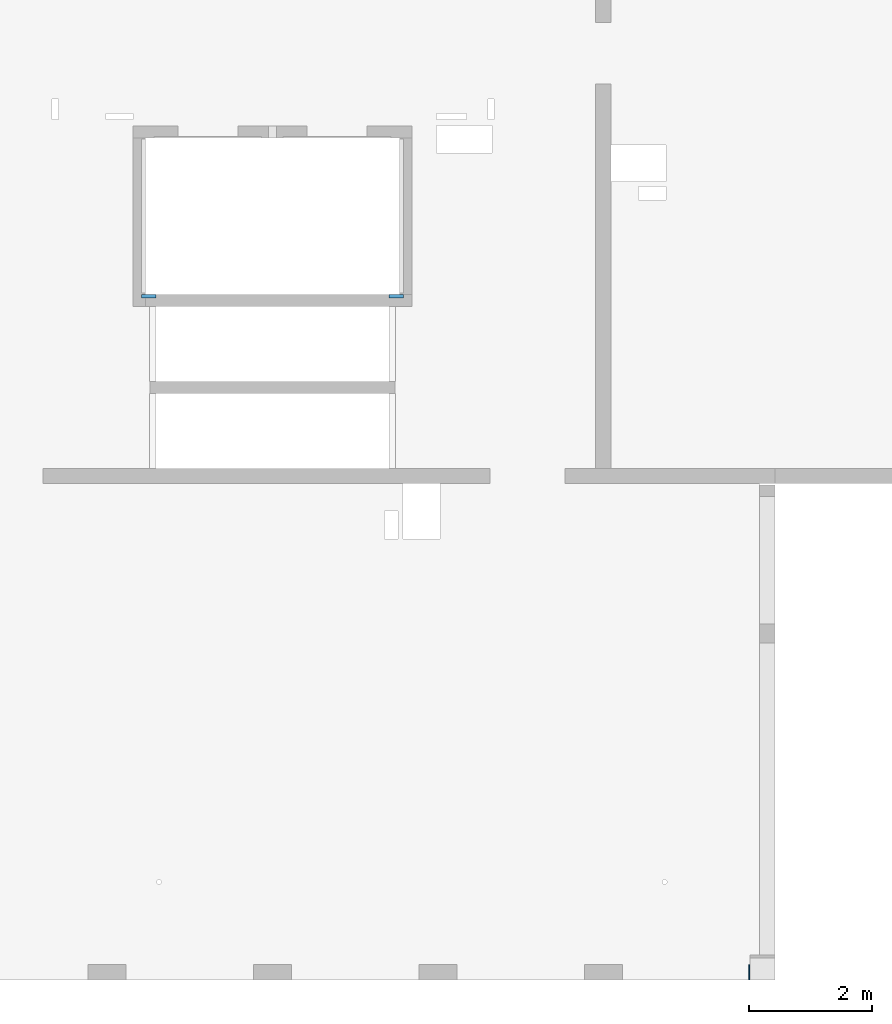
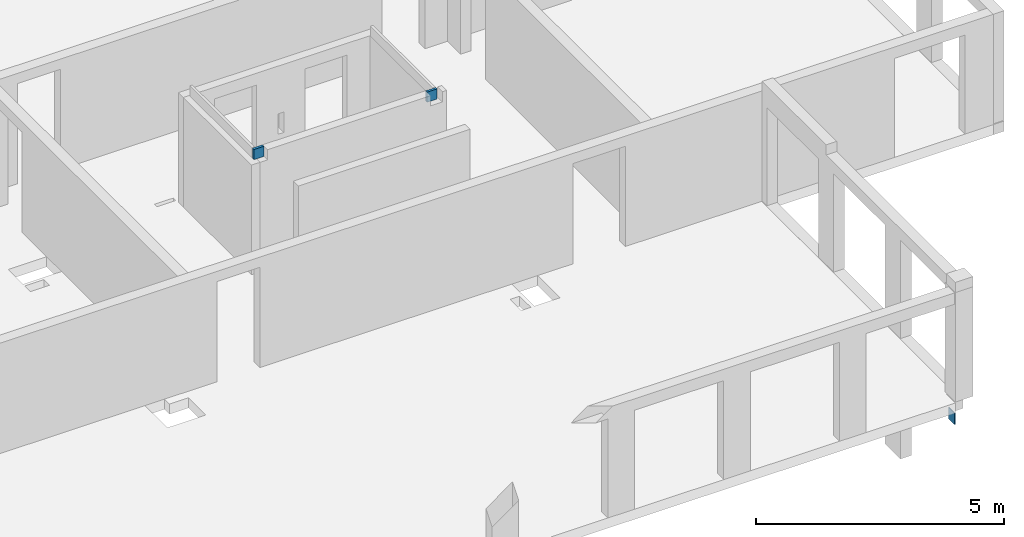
# One storey, part 8 of 9: 3 walls.
"""IFC2X3 building model written with IfcOpenShell, lengths in millimetres."""

import ifcopenshell
import ifcopenshell.guid

model = None  # the IFC model being written
_history = None  # IfcOwnerHistory: only IFC2X3 demands one
_inside = {}  # id of a spatial element -> (the spatial element, [elements in it])
_under = {}  # id of a project, library or spatial element -> (it, [spatial elements below it])
_declared = {}  # id of a project -> (the project, [libraries it declares])
_typed = {}  # id of a type object -> (the type object, [elements of that type])
_made_of = {}  # id of a material, layer set ... -> (it, [elements and type objects made of it])


def new_model(schema):
    """Start an empty IFC model of exactly this schema.

    Asked for "IFC4X3", IfcOpenShell would pick the latest addendum, in which some entities
    have other attributes; the version numbers below select the first issue.
    IFC2X3 requires an IfcOwnerHistory on every rooted entity: one is made here for all.
    """
    global model, _history
    if schema == "IFC4X3":
        model = ifcopenshell.file(schema_version=(4, 3, 0, 0))
    else:
        model = ifcopenshell.file(schema=schema)
    _inside.clear()
    _under.clear()
    _declared.clear()
    _typed.clear()
    _made_of.clear()
    _history = None
    if model.schema == "IFC2X3":
        org = make("IfcOrganization", Name="unknown")
        user = make(
            "IfcPersonAndOrganization",
            ThePerson=make("IfcPerson", FamilyName="unknown"),
            TheOrganization=org,
        )
        app = make(
            "IfcApplication",
            ApplicationDeveloper=org,
            Version="unknown",
            ApplicationFullName="unknown",
            ApplicationIdentifier="unknown",
        )
        _history = make(
            "IfcOwnerHistory",
            OwningUser=user,
            OwningApplication=app,
            ChangeAction="ADDED",
            CreationDate=0,
        )
    return model


def make(cls, **values):
    """One entity of the class cls with the attributes given. An attribute that is None is left unset."""
    return model.create_entity(
        cls, **{name: value for name, value in values.items() if value is not None}
    )


def entity(cls, *values):
    """Any entity or typed value of the class cls, its attributes in the order of the schema. None: left unset."""
    e = model.create_entity(cls)
    for i, value in enumerate(values):
        if value is not None:
            e[i] = value
    return e


def rooted(cls, **values):
    """An entity with a GlobalId (a new one), such as an element, a storey or a relation."""
    return make(cls, GlobalId=ifcopenshell.guid.new(), OwnerHistory=_history, **values)


def si_unit(unit_type, name, prefix=None):
    """IfcSIUnit, for example si_unit("LENGTHUNIT", "METRE", prefix="MILLI")."""
    return make("IfcSIUnit", UnitType=unit_type, Prefix=prefix, Name=name)


def converted_unit(unit_type, name, factor, base, dimensions=None, offset=None):
    """IfcConversionBasedUnit, such as the inch: factor (a typed value) times the base unit."""
    return make(
        "IfcConversionBasedUnit"
        if offset is None
        else "IfcConversionBasedUnitWithOffset",
        ConversionOffset=offset,
        Dimensions=None
        if dimensions is None
        else entity("IfcDimensionalExponents", *dimensions),
        UnitType=unit_type,
        Name=name,
        ConversionFactor=make(
            "IfcMeasureWithUnit", ValueComponent=factor, UnitComponent=base
        ),
    )


def derived_unit(unit_type, elements):
    """IfcDerivedUnit: a product of units, each with its exponent."""
    return make(
        "IfcDerivedUnit",
        Elements=[
            make("IfcDerivedUnitElement", Unit=unit, Exponent=power)
            for unit, power in elements
        ],
        UnitType=unit_type,
    )


def assignment(units):
    """IfcUnitAssignment: the units of a project."""
    return None if units is None else make("IfcUnitAssignment", Units=units)


def point(xyz):
    """IfcCartesianPoint."""
    return None if xyz is None else make("IfcCartesianPoint", Coordinates=xyz)


def direction(xyz):
    """IfcDirection."""
    return None if xyz is None else make("IfcDirection", DirectionRatios=xyz)


def frame(location, z_axis=None, x_axis=None):
    """IfcAxis2Placement3D, a coordinate frame: its origin and axes. An axis left out is left unset."""
    return make(
        "IfcAxis2Placement3D",
        Location=point(location),
        Axis=direction(z_axis),
        RefDirection=direction(x_axis),
    )


def frame_2d(location, x_axis=None):
    """IfcAxis2Placement2D, a coordinate frame in the plane: its origin and x axis."""
    return make(
        "IfcAxis2Placement2D", Location=point(location), RefDirection=direction(x_axis)
    )


def origin():
    """The frame at (0, 0, 0) with its axes left unset."""
    return frame((0.0, 0.0, 0.0))


def place(relative_to, where):
    """IfcLocalPlacement: puts the frame where relative to a parent placement (None: the world)."""
    return make(
        "IfcLocalPlacement", PlacementRelTo=relative_to, RelativePlacement=where
    )


def context(
    kind, dimensions, precision=None, world=None, true_north=None, identifier=None
):
    """IfcGeometricRepresentationContext, for example the 3D "Model" context."""
    return make(
        "IfcGeometricRepresentationContext",
        ContextIdentifier=identifier,
        ContextType=kind,
        CoordinateSpaceDimension=dimensions,
        Precision=precision,
        WorldCoordinateSystem=world,
        TrueNorth=true_north,
    )


def subcontext(parent, identifier, kind, view, scale=None):
    """IfcGeometricRepresentationSubContext, for example "Body" below "Model"."""
    return make(
        "IfcGeometricRepresentationSubContext",
        ContextIdentifier=identifier,
        ContextType=kind,
        ParentContext=parent,
        TargetScale=scale,
        TargetView=view,
    )


def project(units=None, contexts=None):
    """IfcProject with its units and contexts."""
    return rooted(
        "IfcProject",
        Name="project",
        RepresentationContexts=contexts,
        UnitsInContext=assignment(units),
    )


def spatial(cls, under=None, at=None, **own):
    """A site, building, storey or space (cls), placed at a placement, below another one or the project."""
    s = rooted(cls, ObjectPlacement=at, **own)
    if under is not None:
        _under.setdefault(under.id(), (under, []))[1].append(s)
    return s


def profile(cls, at=None, kind="AREA", **sizes):
    """A parametric profile (cls). Its sizes go by their IFC names, for example OverallWidth=200.0."""
    return make(cls, ProfileType=kind, Position=at, **sizes)


def rectangle(**sizes):
    """IfcRectangleProfileDef."""
    return profile("IfcRectangleProfileDef", **sizes)


def extrude(swept, where, along, depth):
    """IfcExtrudedAreaSolid: the profile swept, set in the frame where, extruded along a direction by depth."""
    return make(
        "IfcExtrudedAreaSolid",
        SweptArea=swept,
        Position=where,
        ExtrudedDirection=direction(along),
        Depth=depth,
    )


def shape(context_of_items, identifier, shape_type, items):
    """IfcShapeRepresentation: the items that make up one representation, for example the "Body"."""
    return make(
        "IfcShapeRepresentation",
        ContextOfItems=context_of_items,
        RepresentationIdentifier=identifier,
        RepresentationType=shape_type,
        Items=items,
    )


def material(Name=None, Category=None):
    """IfcMaterial."""
    return make("IfcMaterial", Name=Name, Category=Category)


def layer(
    of_material, thickness, ventilated=None, Name=None, Category=None, Priority=None
):
    """IfcMaterialLayer: one layer of a wall or slab, of a material (None: an air gap)."""
    return make(
        "IfcMaterialLayer",
        Material=of_material,
        LayerThickness=thickness,
        IsVentilated=ventilated,
        Name=Name,
        Category=Category,
        Priority=Priority,
    )


def layer_set(layers, Name=None):
    """IfcMaterialLayerSet."""
    return make("IfcMaterialLayerSet", MaterialLayers=layers, LayerSetName=Name)


def layer_usage(for_layer_set, set_direction, sense, offset, extent=None):
    """IfcMaterialLayerSetUsage: how a layer set lies in its element."""
    return make(
        "IfcMaterialLayerSetUsage",
        ForLayerSet=for_layer_set,
        LayerSetDirection=set_direction,
        DirectionSense=sense,
        OffsetFromReferenceLine=offset,
        ReferenceExtent=extent,
    )


def made_of(thing, what):
    """Note that an element or type object is made of a material, layer set ...; save() writes the relation."""
    if what is not None:
        _made_of.setdefault(what.id(), (what, []))[1].append(thing)
    return thing


def type_object(cls, material=None, **own):
    """A type object (cls), such as IfcWallType, which elements share."""
    return made_of(rooted(cls, **own), material)


def element(
    cls,
    number,
    at=None,
    inside=None,
    cuts=None,
    type_object=None,
    material=None,
    context=None,
    identifier="Body",
    shape_type=None,
    held_by="IfcProductDefinitionShape",
    body=None,
    shapes=None,
    **own,
):
    """One element of the class cls, such as IfcWall. Its Tag is "e" and its number.

    at: its placement. inside: the storey or other place that contains it. cuts: it is an
    opening in that element (IfcRelVoidsElement). A single representation is given by context,
    identifier, shape_type and body (its items); several are given by shapes. held_by: the class
    of the entity that holds the representations. save() writes the other relations.
    """
    e = rooted(cls, Tag="e%d" % number, ObjectPlacement=at, **own)
    if body is not None:
        shapes = [shape(context, identifier, shape_type, body)]
    if shapes is not None:
        e.Representation = make(held_by, Representations=shapes)
    if inside is not None:
        _inside.setdefault(inside.id(), (inside, []))[1].append(e)
    if cuts is not None:
        rooted(
            "IfcRelVoidsElement", RelatingBuildingElement=cuts, RelatedOpeningElement=e
        )
    if type_object is not None:
        _typed.setdefault(type_object.id(), (type_object, []))[1].append(e)
    return made_of(e, material)


def aggregate(whole, parts):
    """IfcRelAggregates: a whole, such as a stair, and the parts it consists of."""
    return rooted("IfcRelAggregates", RelatingObject=whole, RelatedObjects=parts)


def save(model, path):
    """Write the relations noted so far, then the file.

    IfcRelAggregates (storeys below a building ...), IfcRelContainedInSpatialStructure (elements
    in a storey), IfcRelDefinesByType, IfcRelAssociatesMaterial and IfcRelDeclares: one each for
    every whole, place, type object, material and project.
    """
    for whole, parts in _under.values():
        aggregate(whole, parts)
    for where, things in _inside.values():
        rooted(
            "IfcRelContainedInSpatialStructure",
            RelatedElements=things,
            RelatingStructure=where,
        )
    for kind, things in _typed.values():
        rooted("IfcRelDefinesByType", RelatedObjects=things, RelatingType=kind)
    for what, things in _made_of.values():
        rooted("IfcRelAssociatesMaterial", RelatedObjects=things, RelatingMaterial=what)
    for by, libraries in _declared.values():
        rooted("IfcRelDeclares", RelatingContext=by, RelatedDefinitions=libraries)
    model.write(path)


model = new_model("IFC2X3")

# Units and contexts
model_context = context("Model", 3, precision=0.01, world=origin(), true_north=direction((6.12303176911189e-17, 1.0)))
body_context = subcontext(model_context, "Body", "Model", "MODEL_VIEW")
ifc_project = project(units=[si_unit("LENGTHUNIT", "METRE", prefix="MILLI"), si_unit("AREAUNIT", "SQUARE_METRE"), si_unit("VOLUMEUNIT", "CUBIC_METRE"), converted_unit("PLANEANGLEUNIT", "DEGREE", entity("IfcRatioMeasure", 0.0174532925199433), si_unit("PLANEANGLEUNIT", "RADIAN"), dimensions=[0, 0, 0, 0, 0, 0, 0]), si_unit("MASSUNIT", "GRAM", prefix="KILO"), derived_unit("MASSDENSITYUNIT", [(si_unit("MASSUNIT", "GRAM", prefix="KILO"), 1), (si_unit("LENGTHUNIT", "METRE"), -3)]), si_unit("TIMEUNIT", "SECOND"), si_unit("FREQUENCYUNIT", "HERTZ"), si_unit("THERMODYNAMICTEMPERATUREUNIT", "DEGREE_CELSIUS"), derived_unit("THERMALTRANSMITTANCEUNIT", [(si_unit("MASSUNIT", "GRAM", prefix="KILO"), 1), (si_unit("THERMODYNAMICTEMPERATUREUNIT", "KELVIN"), -1), (si_unit("TIMEUNIT", "SECOND"), -3)]), derived_unit("VOLUMETRICFLOWRATEUNIT", [(si_unit("LENGTHUNIT", "METRE"), 3), (si_unit("TIMEUNIT", "SECOND"), -1)]), si_unit("ELECTRICCURRENTUNIT", "AMPERE"), si_unit("ELECTRICVOLTAGEUNIT", "VOLT"), si_unit("POWERUNIT", "WATT"), si_unit("FORCEUNIT", "NEWTON", prefix="KILO"), si_unit("ILLUMINANCEUNIT", "LUX"), si_unit("LUMINOUSFLUXUNIT", "LUMEN"), si_unit("LUMINOUSINTENSITYUNIT", "CANDELA"), derived_unit("USERDEFINED", [(si_unit("MASSUNIT", "GRAM", prefix="KILO"), -1), (si_unit("LENGTHUNIT", "METRE"), -2), (si_unit("TIMEUNIT", "SECOND"), 3), (si_unit("LUMINOUSFLUXUNIT", "LUMEN"), 1)]), derived_unit("LINEARVELOCITYUNIT", [(si_unit("LENGTHUNIT", "METRE"), 1), (si_unit("TIMEUNIT", "SECOND"), -1)]), si_unit("PRESSUREUNIT", "PASCAL"), derived_unit("USERDEFINED", [(si_unit("LENGTHUNIT", "METRE"), -2), (si_unit("MASSUNIT", "GRAM", prefix="KILO"), 1), (si_unit("TIMEUNIT", "SECOND"), -2)])], contexts=[model_context])

# Site, building, storey
site_placement = place(None, origin())
site = spatial("IfcSite", under=ifc_project, at=site_placement, Name="Default", CompositionType="ELEMENT")
building_placement = place(site_placement, origin())
building = spatial("IfcBuilding", under=site, at=building_placement, Name="niet gebruiken", CompositionType="ELEMENT")
storey_placement = place(building_placement, frame((0.0, 0.0, 33390.0)))
storey = spatial("IfcBuildingStorey", under=building, at=storey_placement, Name="11 elfde verdieping", CompositionType="ELEMENT", Elevation=33390.0)

# Walls
ifc_material_1 = material(Name="NLRS_f2_beton ihwg")
ifc_layer_1 = layer(ifc_material_1, 250.0)
ifc_layer_set_1 = layer_set([ifc_layer_1], Name="Basic Wall:NLRS_21.21_WA_beton ihwg d=250_gen")
ifc_layer_usage_1 = layer_usage(ifc_layer_set_1, "AXIS2", "NEGATIVE", 125.0)
wall_type_1 = type_object("IfcWallType", Name="Basic Wall:NLRS_21.21_WA_beton ihwg d=250_gen", PredefinedType="STANDARD", material=ifc_layer_set_1)
wall_1_placement = place(storey_placement, frame((99570.0, 28881.0, -620.0)))
element("IfcWallStandardCase", 1, at=wall_1_placement, inside=storey, type_object=wall_type_1, material=ifc_layer_usage_1, Name="Basic Wall:NLRS_21.21_WA_beton ihwg d=250_gen", ObjectType="Basic Wall:NLRS_21.21_WA_beton ihwg d=250_gen", context=body_context, shape_type="SweptSolid", body=[
    extrude(rectangle(XDim=19.9999999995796, YDim=250.000000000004, at=frame_2d((9.99999999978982, 1.63424829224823e-13), x_axis=(-1.0, 0.0))), origin(), (0.0, 0.0, 1.0), 280.000000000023),
])
ifc_material_2 = material(Name="NLRS_f2_beton prefab")
ifc_layer_2 = layer(ifc_material_2, 60.0)
ifc_layer_set_2 = layer_set([ifc_layer_2], Name="Basic Wall:NLRS_22.21_WA_beton prefab d=60_gen")
ifc_layer_usage_2 = layer_usage(ifc_layer_set_2, "AXIS2", "NEGATIVE", 30.0)
wall_type_2 = type_object("IfcWallType", Name="Basic Wall:NLRS_22.21_WA_beton prefab d=60_gen", PredefinedType="STANDARD", material=ifc_layer_set_2)
wall_2_placement = place(storey_placement, frame((89665.0, 39916.0, 2630.0)))
element("IfcWallStandardCase", 2, at=wall_2_placement, inside=storey, type_object=wall_type_2, material=ifc_layer_usage_2, Name="Basic Wall:NLRS_22.21_WA_beton prefab d=60_gen", ObjectType="Basic Wall:NLRS_22.21_WA_beton prefab d=60_gen", context=body_context, shape_type="SweptSolid", body=[
    extrude(rectangle(XDim=234.999967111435, YDim=60.0000000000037, at=frame_2d((117.499983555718, -4.12292422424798e-12), x_axis=(-1.0, 0.0))), origin(), (0.0, 0.0, 1.0), 250.000000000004),
])
ifc_layer_usage_3 = layer_usage(ifc_layer_set_2, "AXIS2", "POSITIVE", -30.0)
wall_3_placement = place(storey_placement, frame((93935.0, 39916.0, 2630.0), z_axis=(0.0, 0.0, 1.0), x_axis=(-1.0, 0.0, 0.0)))
element("IfcWallStandardCase", 3, at=wall_3_placement, inside=storey, type_object=wall_type_2, material=ifc_layer_usage_3, Name="Basic Wall:NLRS_22.21_WA_beton prefab d=60_gen", ObjectType="Basic Wall:NLRS_22.21_WA_beton prefab d=60_gen", context=body_context, shape_type="SweptSolid", body=[
    extrude(rectangle(XDim=234.999967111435, YDim=60.0000000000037, at=frame_2d((117.499983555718, 4.12114786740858e-12), x_axis=(-1.0, 0.0))), origin(), (0.0, 0.0, 1.0), 250.000000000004),
])

save(model, "model.ifc")
